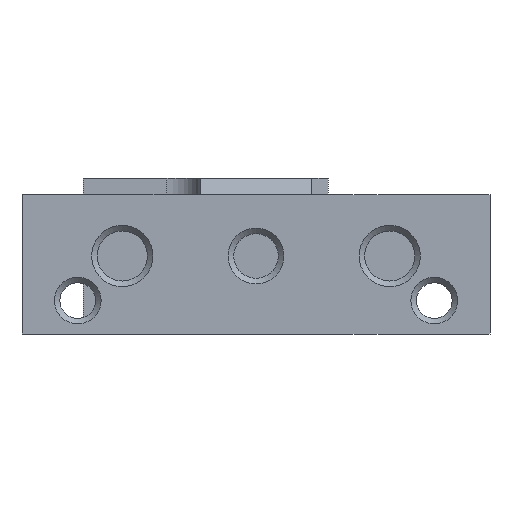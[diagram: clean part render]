
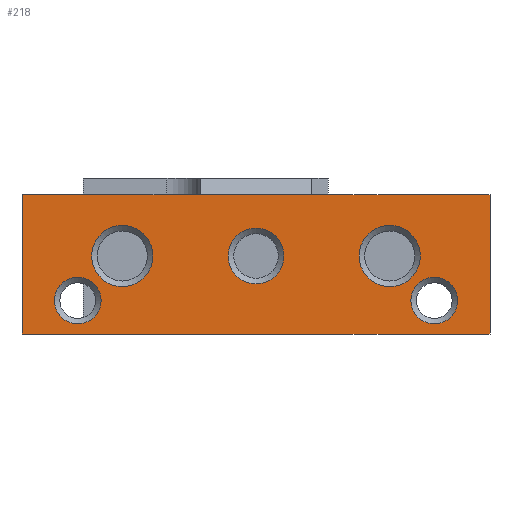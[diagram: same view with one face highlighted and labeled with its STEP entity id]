
A CAD part, front view. The second image highlights one B-rep face of the part: STEP entity #218.
In plain terms, the highlighted planar face has unit normal (0, -1, 0).
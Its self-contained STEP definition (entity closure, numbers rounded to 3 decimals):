
#147=FACE_BOUND('',#317,.T.);
#148=FACE_BOUND('',#318,.T.);
#149=FACE_BOUND('',#319,.T.);
#150=FACE_BOUND('',#320,.T.);
#151=FACE_BOUND('',#321,.T.);
#152=FACE_BOUND('',#322,.T.);
#218=ADVANCED_FACE('',(#147,#148,#149,#150,#151,#152),#271,.F.);
#271=PLANE('',#986);
#317=EDGE_LOOP('',(#457));
#318=EDGE_LOOP('',(#458));
#319=EDGE_LOOP('',(#459));
#320=EDGE_LOOP('',(#460));
#321=EDGE_LOOP('',(#461));
#322=EDGE_LOOP('',(#462,#463,#464,#465));
#457=ORIENTED_EDGE('',*,*,#734,.T.);
#458=ORIENTED_EDGE('',*,*,#735,.T.);
#459=ORIENTED_EDGE('',*,*,#736,.T.);
#460=ORIENTED_EDGE('',*,*,#737,.T.);
#461=ORIENTED_EDGE('',*,*,#738,.T.);
#462=ORIENTED_EDGE('',*,*,#682,.F.);
#463=ORIENTED_EDGE('',*,*,#739,.T.);
#464=ORIENTED_EDGE('',*,*,#732,.T.);
#465=ORIENTED_EDGE('',*,*,#712,.T.);
#600=VERTEX_POINT('',#1331);
#602=VERTEX_POINT('',#1334);
#628=VERTEX_POINT('',#1394);
#643=VERTEX_POINT('',#1432);
#644=VERTEX_POINT('',#1436);
#645=VERTEX_POINT('',#1438);
#646=VERTEX_POINT('',#1440);
#647=VERTEX_POINT('',#1442);
#648=VERTEX_POINT('',#1444);
#682=EDGE_CURVE('',#600,#602,#785,.T.);
#712=EDGE_CURVE('',#628,#602,#809,.T.);
#732=EDGE_CURVE('',#643,#628,#822,.T.);
#734=EDGE_CURVE('',#644,#644,#921,.T.);
#735=EDGE_CURVE('',#645,#645,#922,.T.);
#736=EDGE_CURVE('',#646,#646,#923,.T.);
#737=EDGE_CURVE('',#647,#647,#924,.T.);
#738=EDGE_CURVE('',#648,#648,#925,.T.);
#739=EDGE_CURVE('',#600,#643,#824,.T.);
#785=LINE('',#1333,#843);
#809=LINE('',#1393,#867);
#822=LINE('',#1431,#880);
#824=LINE('',#1445,#882);
#843=VECTOR('',#1074,1.);
#867=VECTOR('',#1118,1.);
#880=VECTOR('',#1151,1.);
#882=VECTOR('',#1165,1.);
#921=CIRCLE('',#981,2.75);
#922=CIRCLE('',#982,2.5);
#923=CIRCLE('',#983,2.75);
#924=CIRCLE('',#984,2.1);
#925=CIRCLE('',#985,2.1);
#981=AXIS2_PLACEMENT_3D('',#1435,#1155,#1156);
#982=AXIS2_PLACEMENT_3D('',#1437,#1157,#1158);
#983=AXIS2_PLACEMENT_3D('',#1439,#1159,#1160);
#984=AXIS2_PLACEMENT_3D('',#1441,#1161,#1162);
#985=AXIS2_PLACEMENT_3D('',#1443,#1163,#1164);
#986=AXIS2_PLACEMENT_3D('',#1446,#1166,#1167);
#1074=DIRECTION('',(0.,0.,-1.));
#1118=DIRECTION('',(1.,0.,0.));
#1151=DIRECTION('',(0.,0.,-1.));
#1155=DIRECTION('',(0.,1.,0.));
#1156=DIRECTION('',(0.,0.,1.));
#1157=DIRECTION('',(0.,1.,0.));
#1158=DIRECTION('',(0.,0.,1.));
#1159=DIRECTION('',(0.,1.,0.));
#1160=DIRECTION('',(0.,0.,1.));
#1161=DIRECTION('',(0.,1.,0.));
#1162=DIRECTION('',(0.,0.,1.));
#1163=DIRECTION('',(0.,1.,0.));
#1164=DIRECTION('',(0.,0.,1.));
#1165=DIRECTION('',(-1.,0.,0.));
#1166=DIRECTION('',(0.,1.,0.));
#1167=DIRECTION('',(0.,0.,1.));
#1331=CARTESIAN_POINT('',(21.,0.,12.5));
#1333=CARTESIAN_POINT('',(21.,0.,14.));
#1334=CARTESIAN_POINT('',(21.,0.,0.));
#1393=CARTESIAN_POINT('',(-8.,0.,0.));
#1394=CARTESIAN_POINT('',(-21.,0.,0.));
#1431=CARTESIAN_POINT('',(-21.,0.,14.));
#1432=CARTESIAN_POINT('',(-21.,0.,12.5));
#1435=CARTESIAN_POINT('',(-12.,0.,7.));
#1436=CARTESIAN_POINT('',(-12.,0.,9.75));
#1437=CARTESIAN_POINT('',(0.,0.,7.));
#1438=CARTESIAN_POINT('',(0.,0.,9.5));
#1439=CARTESIAN_POINT('',(12.,0.,7.));
#1440=CARTESIAN_POINT('',(12.,0.,9.75));
#1441=CARTESIAN_POINT('',(16.,0.,3.));
#1442=CARTESIAN_POINT('',(16.,0.,5.1));
#1443=CARTESIAN_POINT('',(-16.,0.,3.));
#1444=CARTESIAN_POINT('',(-16.,0.,5.1));
#1445=CARTESIAN_POINT('',(21.,0.,12.5));
#1446=CARTESIAN_POINT('',(0.,0.,14.));
